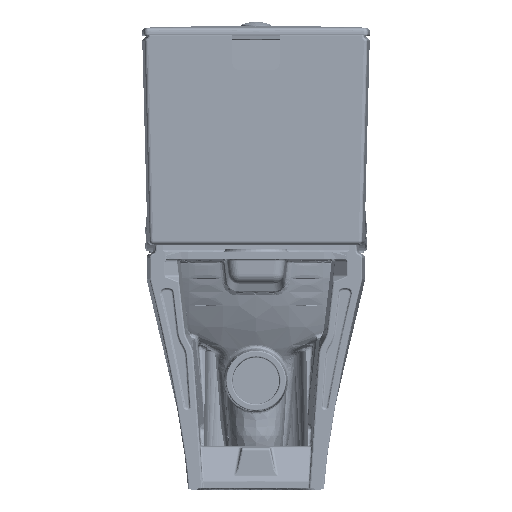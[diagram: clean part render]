
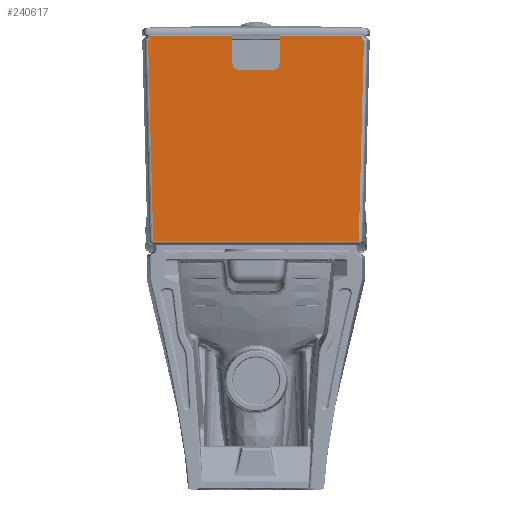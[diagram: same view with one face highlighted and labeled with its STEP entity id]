
A CAD part, left-side view. The second image highlights one B-rep face of the part: STEP entity #240617.
In plain terms, the highlighted planar face has unit normal (-1, 0, 0).
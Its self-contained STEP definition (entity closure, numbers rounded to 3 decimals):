
#239967=CARTESIAN_POINT('',(0.,174.027,19.));
#239968=VERTEX_POINT('',#239967);
#239969=CARTESIAN_POINT('',(0.,182.679,358.009));
#239970=VERTEX_POINT('',#239969);
#239971=CARTESIAN_POINT('',(0.,174.027,19.));
#239972=CARTESIAN_POINT('',(0.,175.758,86.802));
#239973=CARTESIAN_POINT('',(0.,177.488,154.604));
#239974=CARTESIAN_POINT('',(0.,179.218,222.405));
#239975=CARTESIAN_POINT('',(0.,180.949,290.207));
#239976=CARTESIAN_POINT('',(0.,182.679,358.009));
#239977=B_SPLINE_CURVE_WITH_KNOTS('',5,(#239971,#239972,#239973,#239974,#239975,#239976),.UNSPECIFIED.,.F.,.U.,(6,6),(131.193,470.313),.UNSPECIFIED.);
#239978=EDGE_CURVE('',#239968,#239970,#239977,.T.);
#240388=CARTESIAN_POINT('',(0.,-174.027,19.));
#240389=VERTEX_POINT('',#240388);
#240390=CARTESIAN_POINT('',(0.0,174.027,19.0));
#240391=DIRECTION('',(0.0,-1.0,0.0));
#240392=VECTOR('',#240391,348.055);
#240393=LINE('',#240390,#240392);
#240394=EDGE_CURVE('',#239968,#240389,#240393,.T.);
#240507=CARTESIAN_POINT('',(0.0,0.0,15.0));
#240508=DIRECTION('',(-1.0,0.0,0.0));
#240509=DIRECTION('',(0.0,0.0,1.0));
#240510=AXIS2_PLACEMENT_3D('',#240507,#240508,#240509);
#240511=PLANE('',#240510);
#240512=CARTESIAN_POINT('',(0.0,-40.0,320.0));
#240513=VERTEX_POINT('',#240512);
#240514=CARTESIAN_POINT('',(0.0,-28.,308.0));
#240515=VERTEX_POINT('',#240514);
#240516=CARTESIAN_POINT('',(0.0,-28.,320.0));
#240517=DIRECTION('',(-1.0,0.0,0.0));
#240518=DIRECTION('',(0.0,1.0,0.0));
#240519=AXIS2_PLACEMENT_3D('',#240516,#240517,#240518);
#240520=CIRCLE('',#240519,12.);
#240521=EDGE_CURVE('',#240513,#240515,#240520,.F.);
#240522=ORIENTED_EDGE('',*,*,#240521,.T.);
#240523=CARTESIAN_POINT('',(0.0,28.,308.0));
#240524=VERTEX_POINT('',#240523);
#240525=CARTESIAN_POINT('',(0.0,-28.,308.0));
#240526=DIRECTION('',(0.0,1.0,0.0));
#240527=VECTOR('',#240526,56.);
#240528=LINE('',#240525,#240527);
#240529=EDGE_CURVE('',#240515,#240524,#240528,.T.);
#240530=ORIENTED_EDGE('',*,*,#240529,.T.);
#240531=CARTESIAN_POINT('',(0.0,40.0,320.0));
#240532=VERTEX_POINT('',#240531);
#240533=CARTESIAN_POINT('',(0.0,28.,320.));
#240534=DIRECTION('',(1.0,0.0,0.0));
#240535=DIRECTION('',(0.0,1.0,0.0));
#240536=AXIS2_PLACEMENT_3D('',#240533,#240534,#240535);
#240537=CIRCLE('',#240536,12.);
#240538=EDGE_CURVE('',#240524,#240532,#240537,.T.);
#240539=ORIENTED_EDGE('',*,*,#240538,.T.);
#240540=CARTESIAN_POINT('',(0.0,40.,366.));
#240541=VERTEX_POINT('',#240540);
#240542=CARTESIAN_POINT('',(0.0,40.0,320.0));
#240543=DIRECTION('',(0.0,0.0,1.0));
#240544=VECTOR('',#240543,46.);
#240545=LINE('',#240542,#240544);
#240546=EDGE_CURVE('',#240532,#240541,#240545,.T.);
#240547=ORIENTED_EDGE('',*,*,#240546,.T.);
#240548=CARTESIAN_POINT('',(0.,178.681,366.));
#240549=VERTEX_POINT('',#240548);
#240550=CARTESIAN_POINT('',(0.0,178.681,366.));
#240551=DIRECTION('',(0.0,-1.0,0.));
#240552=VECTOR('',#240551,138.681);
#240553=LINE('',#240550,#240552);
#240554=EDGE_CURVE('',#240541,#240549,#240553,.F.);
#240555=ORIENTED_EDGE('',*,*,#240554,.T.);
#240556=CARTESIAN_POINT('',(0.,178.841,364.475));
#240557=VERTEX_POINT('',#240556);
#240558=CARTESIAN_POINT('',(0.0,178.681,366.));
#240559=DIRECTION('',(0.0,0.105,-0.995));
#240560=VECTOR('',#240559,1.534);
#240561=LINE('',#240558,#240560);
#240562=EDGE_CURVE('',#240549,#240557,#240561,.T.);
#240563=ORIENTED_EDGE('',*,*,#240562,.T.);
#240564=CARTESIAN_POINT('',(0.,187.767,365.399));
#240565=DIRECTION('',(1.,0.,0.));
#240566=DIRECTION('',(0.,-0.581,0.814));
#240567=AXIS2_PLACEMENT_3D('',#240564,#240565,#240566);
#240568=ELLIPSE('',#240567,8.986,8.97);
#240569=EDGE_CURVE('',#240557,#239970,#240568,.T.);
#240570=ORIENTED_EDGE('',*,*,#240569,.T.);
#240571=ORIENTED_EDGE('',*,*,#239978,.F.);
#240572=ORIENTED_EDGE('',*,*,#240394,.T.);
#240573=CARTESIAN_POINT('',(0.,-182.679,358.009));
#240574=VERTEX_POINT('',#240573);
#240575=CARTESIAN_POINT('',(0.0,-174.027,19.0));
#240576=CARTESIAN_POINT('',(0.0,-175.758,86.802));
#240577=CARTESIAN_POINT('',(0.0,-177.488,154.604));
#240578=CARTESIAN_POINT('',(0.0,-179.218,222.406));
#240579=CARTESIAN_POINT('',(0.0,-180.949,290.207));
#240580=CARTESIAN_POINT('',(0.0,-182.679,358.009));
#240581=B_SPLINE_CURVE_WITH_KNOTS('',5,(#240575,#240576,#240577,#240578,#240579,#240580),.UNSPECIFIED.,.F.,.U.,(6,6),(0.0,479.588),.UNSPECIFIED.);
#240582=EDGE_CURVE('',#240389,#240574,#240581,.T.);
#240583=ORIENTED_EDGE('',*,*,#240582,.T.);
#240584=CARTESIAN_POINT('',(0.,-178.841,364.475));
#240585=VERTEX_POINT('',#240584);
#240586=CARTESIAN_POINT('',(0.,-187.767,365.399));
#240587=DIRECTION('',(-1.,0.,0.));
#240588=DIRECTION('',(0.,-0.581,-0.814));
#240589=AXIS2_PLACEMENT_3D('',#240586,#240587,#240588);
#240590=ELLIPSE('',#240589,8.986,8.97);
#240591=EDGE_CURVE('',#240585,#240574,#240590,.T.);
#240592=ORIENTED_EDGE('',*,*,#240591,.F.);
#240593=CARTESIAN_POINT('',(0.,-178.681,366.));
#240594=VERTEX_POINT('',#240593);
#240595=CARTESIAN_POINT('',(0.0,-178.841,364.475));
#240596=DIRECTION('',(0.0,0.105,0.995));
#240597=VECTOR('',#240596,1.534);
#240598=LINE('',#240595,#240597);
#240599=EDGE_CURVE('',#240594,#240585,#240598,.F.);
#240600=ORIENTED_EDGE('',*,*,#240599,.F.);
#240601=CARTESIAN_POINT('',(0.0,-40.,366.0));
#240602=VERTEX_POINT('',#240601);
#240603=CARTESIAN_POINT('',(0.0,-40.,366.));
#240604=DIRECTION('',(0.0,-1.0,0.));
#240605=VECTOR('',#240604,138.681);
#240606=LINE('',#240603,#240605);
#240607=EDGE_CURVE('',#240602,#240594,#240606,.T.);
#240608=ORIENTED_EDGE('',*,*,#240607,.F.);
#240609=CARTESIAN_POINT('',(0.0,-40.0,320.0));
#240610=DIRECTION('',(0.0,0.0,1.0));
#240611=VECTOR('',#240610,46.0);
#240612=LINE('',#240609,#240611);
#240613=EDGE_CURVE('',#240513,#240602,#240612,.T.);
#240614=ORIENTED_EDGE('',*,*,#240613,.F.);
#240615=EDGE_LOOP('',(#240522,#240530,#240539,#240547,#240555,#240563,#240570,#240571,#240572,#240583,#240592,#240600,#240608,#240614));
#240616=FACE_OUTER_BOUND('',#240615,.T.);
#240617=ADVANCED_FACE('',(#240616),#240511,.T.);
